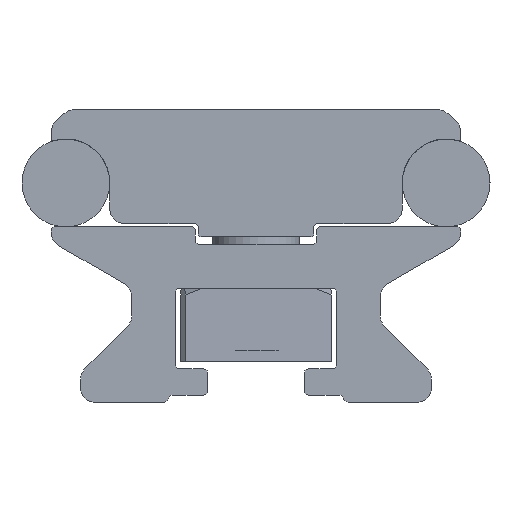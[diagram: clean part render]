
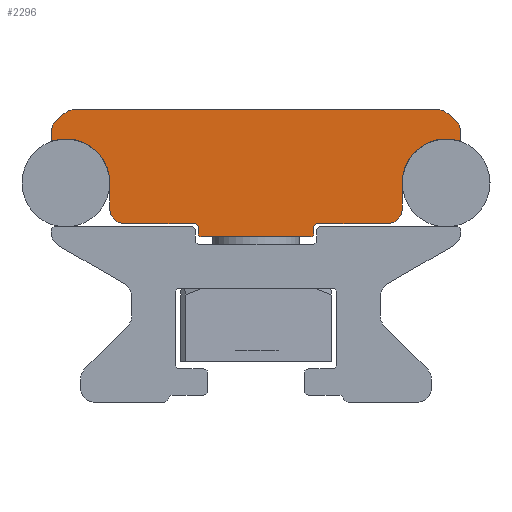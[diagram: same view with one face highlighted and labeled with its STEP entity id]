
A CAD part, left-side view. The second image highlights one B-rep face of the part: STEP entity #2296.
In plain terms, the highlighted planar face has unit normal (-1, 0, 0).
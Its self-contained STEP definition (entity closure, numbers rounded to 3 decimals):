
#89=CIRCLE('',#2463,3.011);
#91=CIRCLE('',#2466,0.1);
#93=CIRCLE('',#2470,1.);
#95=CIRCLE('',#2474,1.);
#102=CIRCLE('',#2483,1.);
#104=CIRCLE('',#2487,1.);
#106=CIRCLE('',#2491,0.1);
#108=CIRCLE('',#2494,3.011);
#110=CIRCLE('',#2498,1.);
#112=CIRCLE('',#2502,0.2);
#114=CIRCLE('',#2506,0.2);
#121=CIRCLE('',#2515,0.2);
#123=CIRCLE('',#2519,0.2);
#125=CIRCLE('',#2523,1.);
#405=ORIENTED_EDGE('',*,*,#905,.F.);
#406=ORIENTED_EDGE('',*,*,#991,.F.);
#407=ORIENTED_EDGE('',*,*,#988,.F.);
#408=ORIENTED_EDGE('',*,*,#985,.F.);
#409=ORIENTED_EDGE('',*,*,#982,.F.);
#410=ORIENTED_EDGE('',*,*,#979,.F.);
#411=ORIENTED_EDGE('',*,*,#976,.F.);
#412=ORIENTED_EDGE('',*,*,#968,.F.);
#413=ORIENTED_EDGE('',*,*,#965,.F.);
#414=ORIENTED_EDGE('',*,*,#962,.F.);
#415=ORIENTED_EDGE('',*,*,#959,.F.);
#416=ORIENTED_EDGE('',*,*,#956,.F.);
#417=ORIENTED_EDGE('',*,*,#953,.F.);
#418=ORIENTED_EDGE('',*,*,#950,.F.);
#419=ORIENTED_EDGE('',*,*,#947,.F.);
#420=ORIENTED_EDGE('',*,*,#944,.F.);
#421=ORIENTED_EDGE('',*,*,#941,.F.);
#422=ORIENTED_EDGE('',*,*,#938,.F.);
#423=ORIENTED_EDGE('',*,*,#935,.F.);
#424=ORIENTED_EDGE('',*,*,#932,.F.);
#425=ORIENTED_EDGE('',*,*,#924,.F.);
#426=ORIENTED_EDGE('',*,*,#921,.F.);
#427=ORIENTED_EDGE('',*,*,#918,.F.);
#428=ORIENTED_EDGE('',*,*,#915,.F.);
#429=ORIENTED_EDGE('',*,*,#912,.F.);
#430=ORIENTED_EDGE('',*,*,#909,.F.);
#905=EDGE_CURVE('',#1225,#1226,#1450,.T.);
#909=EDGE_CURVE('',#1226,#1229,#89,.T.);
#912=EDGE_CURVE('',#1229,#1231,#91,.T.);
#915=EDGE_CURVE('',#1231,#1233,#1456,.T.);
#918=EDGE_CURVE('',#1233,#1235,#93,.T.);
#921=EDGE_CURVE('',#1235,#1237,#1460,.T.);
#924=EDGE_CURVE('',#1237,#1239,#95,.T.);
#932=EDGE_CURVE('',#1239,#1246,#1464,.T.);
#935=EDGE_CURVE('',#1246,#1248,#102,.T.);
#938=EDGE_CURVE('',#1248,#1250,#1468,.T.);
#941=EDGE_CURVE('',#1250,#1252,#104,.T.);
#944=EDGE_CURVE('',#1252,#1254,#1472,.T.);
#947=EDGE_CURVE('',#1254,#1256,#106,.T.);
#950=EDGE_CURVE('',#1256,#1258,#108,.T.);
#953=EDGE_CURVE('',#1258,#1260,#1477,.T.);
#956=EDGE_CURVE('',#1260,#1262,#110,.T.);
#959=EDGE_CURVE('',#1262,#1264,#1481,.T.);
#962=EDGE_CURVE('',#1264,#1266,#112,.T.);
#965=EDGE_CURVE('',#1266,#1268,#1485,.T.);
#968=EDGE_CURVE('',#1268,#1270,#114,.T.);
#976=EDGE_CURVE('',#1270,#1277,#1489,.T.);
#979=EDGE_CURVE('',#1277,#1279,#121,.T.);
#982=EDGE_CURVE('',#1279,#1281,#1493,.T.);
#985=EDGE_CURVE('',#1281,#1283,#123,.T.);
#988=EDGE_CURVE('',#1283,#1285,#1497,.T.);
#991=EDGE_CURVE('',#1285,#1225,#125,.T.);
#1225=VERTEX_POINT('',#3465);
#1226=VERTEX_POINT('',#3466);
#1229=VERTEX_POINT('',#3474);
#1231=VERTEX_POINT('',#3480);
#1233=VERTEX_POINT('',#3486);
#1235=VERTEX_POINT('',#3492);
#1237=VERTEX_POINT('',#3498);
#1239=VERTEX_POINT('',#3504);
#1246=VERTEX_POINT('',#3520);
#1248=VERTEX_POINT('',#3526);
#1250=VERTEX_POINT('',#3532);
#1252=VERTEX_POINT('',#3538);
#1254=VERTEX_POINT('',#3544);
#1256=VERTEX_POINT('',#3550);
#1258=VERTEX_POINT('',#3556);
#1260=VERTEX_POINT('',#3562);
#1262=VERTEX_POINT('',#3568);
#1264=VERTEX_POINT('',#3574);
#1266=VERTEX_POINT('',#3580);
#1268=VERTEX_POINT('',#3586);
#1270=VERTEX_POINT('',#3592);
#1277=VERTEX_POINT('',#3608);
#1279=VERTEX_POINT('',#3614);
#1281=VERTEX_POINT('',#3620);
#1283=VERTEX_POINT('',#3626);
#1285=VERTEX_POINT('',#3632);
#1450=LINE('',#3464,#1651);
#1456=LINE('',#3485,#1657);
#1460=LINE('',#3497,#1661);
#1464=LINE('',#3519,#1665);
#1468=LINE('',#3531,#1669);
#1472=LINE('',#3543,#1673);
#1477=LINE('',#3561,#1678);
#1481=LINE('',#3573,#1682);
#1485=LINE('',#3585,#1686);
#1489=LINE('',#3607,#1690);
#1493=LINE('',#3619,#1694);
#1497=LINE('',#3631,#1698);
#1651=VECTOR('',#2731,1000.);
#1657=VECTOR('',#2751,1000.);
#1661=VECTOR('',#2763,1000.);
#1665=VECTOR('',#2785,1000.);
#1669=VECTOR('',#2797,1000.);
#1673=VECTOR('',#2809,1000.);
#1678=VECTOR('',#2828,1000.);
#1682=VECTOR('',#2840,1000.);
#1686=VECTOR('',#2852,1000.);
#1690=VECTOR('',#2874,1000.);
#1694=VECTOR('',#2886,1000.);
#1698=VECTOR('',#2898,1000.);
#1889=EDGE_LOOP('',(#405,#406,#407,#408,#409,#410,#411,#412,#413,#414,#415,
#416,#417,#418,#419,#420,#421,#422,#423,#424,#425,#426,#427,#428,#429,#430));
#2062=FACE_BOUND('',#1889,.T.);
#2211=PLANE('',#2526);
#2296=ADVANCED_FACE('',(#2062),#2211,.T.);
#2463=AXIS2_PLACEMENT_3D('',#3473,#2737,#2738);
#2466=AXIS2_PLACEMENT_3D('',#3479,#2744,#2745);
#2470=AXIS2_PLACEMENT_3D('',#3491,#2756,#2757);
#2474=AXIS2_PLACEMENT_3D('',#3503,#2768,#2769);
#2483=AXIS2_PLACEMENT_3D('',#3525,#2790,#2791);
#2487=AXIS2_PLACEMENT_3D('',#3537,#2802,#2803);
#2491=AXIS2_PLACEMENT_3D('',#3549,#2814,#2815);
#2494=AXIS2_PLACEMENT_3D('',#3555,#2821,#2822);
#2498=AXIS2_PLACEMENT_3D('',#3567,#2833,#2834);
#2502=AXIS2_PLACEMENT_3D('',#3579,#2845,#2846);
#2506=AXIS2_PLACEMENT_3D('',#3591,#2857,#2858);
#2515=AXIS2_PLACEMENT_3D('',#3613,#2879,#2880);
#2519=AXIS2_PLACEMENT_3D('',#3625,#2891,#2892);
#2523=AXIS2_PLACEMENT_3D('',#3637,#2903,#2904);
#2526=AXIS2_PLACEMENT_3D('',#3640,#2909,#2910);
#2731=DIRECTION('',(0.,0.,1.));
#2737=DIRECTION('',(-1.,0.,0.));
#2738=DIRECTION('',(0.,1.,0.));
#2744=DIRECTION('',(1.,0.,0.));
#2745=DIRECTION('',(0.,-1.,0.));
#2751=DIRECTION('',(0.,0.,1.));
#2756=DIRECTION('',(1.,0.,0.));
#2757=DIRECTION('',(0.,1.,0.));
#2763=DIRECTION('',(0.,-0.766,0.643));
#2768=DIRECTION('',(1.,0.,0.));
#2769=DIRECTION('',(0.,1.,0.));
#2785=DIRECTION('',(0.,-1.,0.));
#2790=DIRECTION('',(1.,0.,0.));
#2791=DIRECTION('',(0.,1.,0.));
#2797=DIRECTION('',(0.,-0.766,-0.643));
#2802=DIRECTION('',(1.,0.,0.));
#2803=DIRECTION('',(0.,1.,0.));
#2809=DIRECTION('',(0.,0.,-1.));
#2814=DIRECTION('',(1.,0.,0.));
#2815=DIRECTION('',(0.,1.,0.));
#2821=DIRECTION('',(-1.,0.,0.));
#2822=DIRECTION('',(0.,1.,0.));
#2828=DIRECTION('',(0.,0.,-1.));
#2833=DIRECTION('',(1.,0.,0.));
#2834=DIRECTION('',(0.,1.,0.));
#2840=DIRECTION('',(0.,1.,0.));
#2845=DIRECTION('',(-1.,0.,0.));
#2846=DIRECTION('',(0.,-1.,0.));
#2852=DIRECTION('',(0.,0.,-1.));
#2857=DIRECTION('',(1.,0.,0.));
#2858=DIRECTION('',(0.,1.,0.));
#2874=DIRECTION('',(0.,1.,0.));
#2879=DIRECTION('',(1.,0.,0.));
#2880=DIRECTION('',(0.,-1.,0.));
#2886=DIRECTION('',(0.,0.,1.));
#2891=DIRECTION('',(-1.,0.,0.));
#2892=DIRECTION('',(0.,1.,0.));
#2898=DIRECTION('',(0.,1.,0.));
#2903=DIRECTION('',(1.,0.,0.));
#2904=DIRECTION('',(0.,-1.,0.));
#2909=DIRECTION('',(-1.,0.,0.));
#2910=DIRECTION('',(0.,-1.,0.));
#3464=CARTESIAN_POINT('',(-157.2,2405.317,2043.28));
#3465=CARTESIAN_POINT('',(-157.2,2405.317,2043.28));
#3466=CARTESIAN_POINT('',(-157.2,2405.317,2045.071));
#3473=CARTESIAN_POINT('',(-157.2,2408.327,2045.066));
#3474=CARTESIAN_POINT('',(-157.2,2409.188,2047.951));
#3479=CARTESIAN_POINT('',(-157.2,2409.217,2048.047));
#3480=CARTESIAN_POINT('',(-157.2,2409.317,2048.047));
#3485=CARTESIAN_POINT('',(-157.2,2409.317,2048.047));
#3486=CARTESIAN_POINT('',(-157.2,2409.317,2048.604));
#3491=CARTESIAN_POINT('',(-157.2,2408.317,2048.604));
#3492=CARTESIAN_POINT('',(-157.2,2408.96,2049.37));
#3497=CARTESIAN_POINT('',(-157.2,2408.96,2049.37));
#3498=CARTESIAN_POINT('',(-157.2,2408.392,2049.846));
#3503=CARTESIAN_POINT('',(-157.2,2407.749,2049.08));
#3504=CARTESIAN_POINT('',(-157.2,2407.749,2050.08));
#3519=CARTESIAN_POINT('',(-157.2,2407.749,2050.08));
#3520=CARTESIAN_POINT('',(-157.2,2382.885,2050.08));
#3525=CARTESIAN_POINT('',(-157.2,2382.885,2049.08));
#3526=CARTESIAN_POINT('',(-157.2,2382.242,2049.846));
#3531=CARTESIAN_POINT('',(-157.2,2382.242,2049.846));
#3532=CARTESIAN_POINT('',(-157.2,2381.674,2049.37));
#3537=CARTESIAN_POINT('',(-157.2,2382.317,2048.604));
#3538=CARTESIAN_POINT('',(-157.2,2381.317,2048.604));
#3543=CARTESIAN_POINT('',(-157.2,2381.317,2048.604));
#3544=CARTESIAN_POINT('',(-157.2,2381.317,2048.047));
#3549=CARTESIAN_POINT('',(-157.2,2381.417,2048.047));
#3550=CARTESIAN_POINT('',(-157.2,2381.446,2047.951));
#3555=CARTESIAN_POINT('',(-157.2,2382.306,2045.066));
#3556=CARTESIAN_POINT('',(-157.2,2385.317,2045.08));
#3561=CARTESIAN_POINT('',(-157.2,2385.317,2045.08));
#3562=CARTESIAN_POINT('',(-157.2,2385.317,2043.28));
#3567=CARTESIAN_POINT('',(-157.2,2386.317,2043.28));
#3568=CARTESIAN_POINT('',(-157.2,2386.317,2042.28));
#3573=CARTESIAN_POINT('',(-157.2,2386.317,2042.28));
#3574=CARTESIAN_POINT('',(-157.2,2391.165,2042.28));
#3579=CARTESIAN_POINT('',(-157.2,2391.165,2042.08));
#3580=CARTESIAN_POINT('',(-157.2,2391.365,2042.08));
#3585=CARTESIAN_POINT('',(-157.2,2391.365,2042.08));
#3586=CARTESIAN_POINT('',(-157.2,2391.365,2041.58));
#3591=CARTESIAN_POINT('',(-157.2,2391.565,2041.58));
#3592=CARTESIAN_POINT('',(-157.2,2391.565,2041.38));
#3607=CARTESIAN_POINT('',(-157.2,2395.317,2041.38));
#3608=CARTESIAN_POINT('',(-157.2,2399.069,2041.38));
#3613=CARTESIAN_POINT('',(-157.2,2399.069,2041.58));
#3614=CARTESIAN_POINT('',(-157.2,2399.269,2041.58));
#3619=CARTESIAN_POINT('',(-157.2,2399.269,2041.58));
#3620=CARTESIAN_POINT('',(-157.2,2399.269,2042.08));
#3625=CARTESIAN_POINT('',(-157.2,2399.469,2042.08));
#3626=CARTESIAN_POINT('',(-157.2,2399.469,2042.28));
#3631=CARTESIAN_POINT('',(-157.2,2399.469,2042.28));
#3632=CARTESIAN_POINT('',(-157.2,2404.317,2042.28));
#3637=CARTESIAN_POINT('',(-157.2,2404.317,2043.28));
#3640=CARTESIAN_POINT('',(-157.2,2408.327,2045.066));
